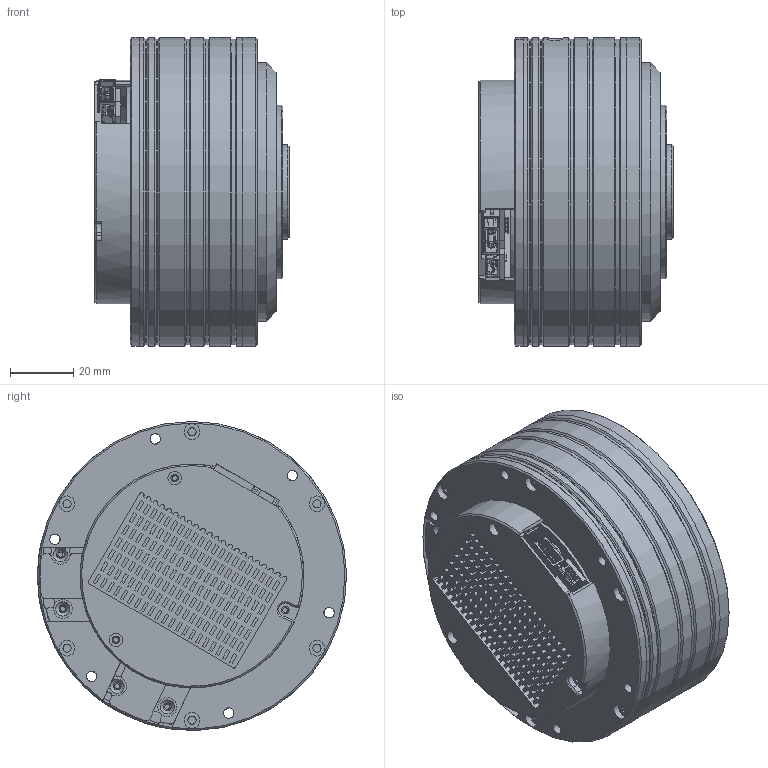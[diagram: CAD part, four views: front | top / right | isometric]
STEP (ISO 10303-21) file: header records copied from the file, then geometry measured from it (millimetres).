
FILE_DESCRIPTION (( 'STEP AP214' ), '1' );
FILE_NAME ('AK10-9 KV60 V3.0.STEP', '2024-08-21T03:56:42', ( '' ), ( '' ), 'SwSTEP 2.0', 'SolidWorks 2020', '' );
FILE_SCHEMA (( 'AUTOMOTIVE_DESIGN' ));
Length unit declared in the file: millimetre
Products named in the file (1): AK10-9 KV60 V3.0
Bounding box: 61.7 x 98 x 98 mm (x, y, z)
Surface area: 59764.2 mm2 (no closed solid volume)
Topology: 0 solids, 242 shells, 2305 faces, 6506 edges, 4574 vertices
Faces by surface type: plane 1429, cylinder 499, bspline 326, cone 39, torus 10, sphere 2
Full cylindrical faces by diameter (mm): 0.009 x3, 0.012 x1, 0.06 x2, 0.068 x6, 0.1 x3, 0.39 x1, 0.442 x2, 0.45 x1, 0.5 x1, 0.51 x2, 0.65 x1, 0.75 x1, 0.9 x2, 1 x4, 1.6 x4, 1.8 x2, 2 x5, 2.4 x10, 2.5 x8, 2.6 x6, 3 x2, 3.2 x6, 3.3 x6, 3.4 x2, 4 x12, 4.3 x2, 5 x6, 6 x9, 11 x1, 18 x1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
Entity records: 106214 total; most frequent: CARTESIAN_POINT 24566, DIRECTION 10815, ORIENTED_EDGE 10739, EDGE_CURVE 6267, VERTEX_POINT 4539, LINE 4327, VECTOR 4327, AXIS2_PLACEMENT_3D 3244
